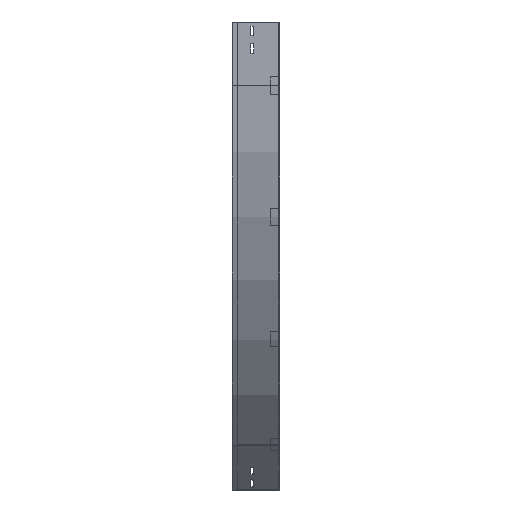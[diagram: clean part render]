
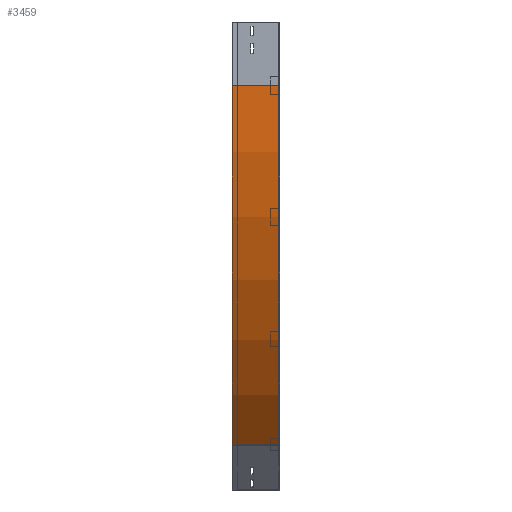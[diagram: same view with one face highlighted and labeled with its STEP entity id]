
A CAD part, left-side view. The second image highlights one B-rep face of the part: STEP entity #3459.
In plain terms, the highlighted cylindrical face has radius 1200 mm (diameter 2400 mm), a partial arc.
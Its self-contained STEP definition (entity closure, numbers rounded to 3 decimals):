
#26 = CIRCLE ( 'NONE', #1716, 1200. ) ;
#30 = EDGE_CURVE ( 'NONE', #3655, #2777, #2716, .T. ) ;
#77 = FACE_OUTER_BOUND ( 'NONE', #3143, .T. ) ;
#98 = CYLINDRICAL_SURFACE ( 'NONE', #755, 1200. ) ;
#127 = VECTOR ( 'NONE', #3672, 1000. ) ;
#198 = CARTESIAN_POINT ( 'NONE',  ( 1200., 112.5, -150. ) ) ;
#668 = EDGE_CURVE ( 'NONE', #1065, #3655, #26, .T. ) ;
#700 = CARTESIAN_POINT ( 'NONE',  ( 0., 112.5, -150. ) ) ;
#721 = DIRECTION ( 'NONE',  ( 0., -1., 0. ) ) ;
#755 = AXIS2_PLACEMENT_3D ( 'NONE', #3670, #721, #2464 ) ;
#758 = ORIENTED_EDGE ( 'NONE', *, *, #1702, .F. ) ;
#894 = CARTESIAN_POINT ( 'NONE',  ( 1200., 0., -150. ) ) ;
#1065 = VERTEX_POINT ( 'NONE', #700 ) ;
#1103 = CARTESIAN_POINT ( 'NONE',  ( 351.472, 0., -998.528 ) ) ;
#1570 = CARTESIAN_POINT ( 'NONE',  ( 0., 0., -150. ) ) ;
#1671 = DIRECTION ( 'NONE',  ( 0., -1., 0. ) ) ;
#1680 = CARTESIAN_POINT ( 'NONE',  ( 351.472, 112.5, -998.528 ) ) ;
#1702 = EDGE_CURVE ( 'NONE', #3432, #2777, #3713, .T. ) ;
#1716 = AXIS2_PLACEMENT_3D ( 'NONE', #198, #1671, #3112 ) ;
#1814 = DIRECTION ( 'NONE',  ( -1., 0., 0. ) ) ;
#2069 = ORIENTED_EDGE ( 'NONE', *, *, #668, .T. ) ;
#2219 = LINE ( 'NONE', #1570, #127 ) ;
#2456 = ORIENTED_EDGE ( 'NONE', *, *, #30, .T. ) ;
#2464 = DIRECTION ( 'NONE',  ( 0., 0., -1. ) ) ;
#2716 = LINE ( 'NONE', #2752, #3787 ) ;
#2752 = CARTESIAN_POINT ( 'NONE',  ( 351.472, 0., -998.528 ) ) ;
#2777 = VERTEX_POINT ( 'NONE', #1103 ) ;
#2851 = AXIS2_PLACEMENT_3D ( 'NONE', #894, #3342, #1814 ) ;
#2983 = DIRECTION ( 'NONE',  ( 0., -1., 0. ) ) ;
#3018 = EDGE_CURVE ( 'NONE', #1065, #3432, #2219, .T. ) ;
#3112 = DIRECTION ( 'NONE',  ( -1., 0., 0. ) ) ;
#3143 = EDGE_LOOP ( 'NONE', ( #758, #3664, #2069, #2456 ) ) ;
#3342 = DIRECTION ( 'NONE',  ( 0., -1., 0. ) ) ;
#3362 = CARTESIAN_POINT ( 'NONE',  ( 0., 0., -150. ) ) ;
#3432 = VERTEX_POINT ( 'NONE', #3362 ) ;
#3459 = ADVANCED_FACE ( 'NONE', ( #77 ), #98, .T. ) ;
#3655 = VERTEX_POINT ( 'NONE', #1680 ) ;
#3664 = ORIENTED_EDGE ( 'NONE', *, *, #3018, .F. ) ;
#3670 = CARTESIAN_POINT ( 'NONE',  ( 1200., 0., -150. ) ) ;
#3672 = DIRECTION ( 'NONE',  ( 0., -1., 0. ) ) ;
#3713 = CIRCLE ( 'NONE', #2851, 1200. ) ;
#3787 = VECTOR ( 'NONE', #2983, 1000. ) ;
